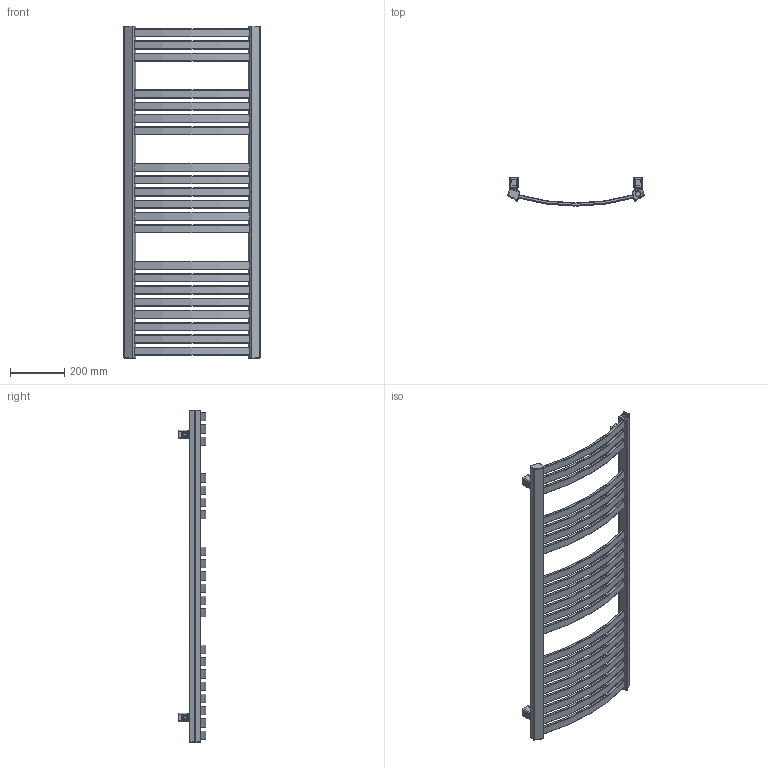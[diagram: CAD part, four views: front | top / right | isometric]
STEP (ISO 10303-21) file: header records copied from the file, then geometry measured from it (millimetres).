
FILE_DESCRIPTION((''),'2;1');
FILE_NAME('Z:\R\G\P\RGPH02 - Grzejnik Dexter\Work\Inventor\Marketing\Autocad\DE-1220-500 SX.stp','2012-07-12T13:31:20',('KurKa'),(''),'Autodesk Inventor 2012','Autodesk Inventor 2012','');
FILE_SCHEMA(('AUTOMOTIVE_DESIGN { 1 0 10303 214 1 1 1 1 }'));
Length unit declared in the file: millimetre
Products named in the file (10): DE-1220-500 SX; DE-1220-500-1-5-8; MKT42-00-B v0.2; MKT42-01 v0; MKT42-02-B v0; PN_M-82019; M6; NK-S10-M5-3-R; PN-87/M-82302 M5 x 22; PN-87/M-82302  M5 x 12; MKT42-03 v0.2
Assembly tree (12 placements, depth 3):
  DE-1220-500 SX
    DE-1220-500-1-5-8
    MKT42-00-B v0.2  x4
      MKT42-01 v0
      MKT42-02-B v0
      PN_M-82019; M6
      NK-S10-M5-3-R
      PN-87/M-82302 M5 x 22
      PN-87/M-82302  M5 x 12
      MKT42-03 v0.2
Bounding box: 499.87 x 102.4 x 1220 mm (x, y, z)
Volume: 5746716.7 mm3; surface area: 1106649.1 mm2
Topology: 29 solids, 29 shells, 1605 faces, 4375 edges, 2849 vertices
Faces by surface type: plane 1025, cylinder 369, torus 127, cone 44, bspline 40
Full cylindrical faces by diameter (mm): 4.134 x4, 5 x8, 5.5 x12, 6.3 x4, 8.5 x8, 10 x4, 18 x4, 18.631 x3
Entity records: 18928 total; most frequent: CARTESIAN_POINT 3719, DIRECTION 3248, ORIENTED_EDGE 3072, EDGE_CURVE 1536, AXIS2_PLACEMENT_3D 1185, VERTEX_POINT 1014, VECTOR 878, LINE 878
